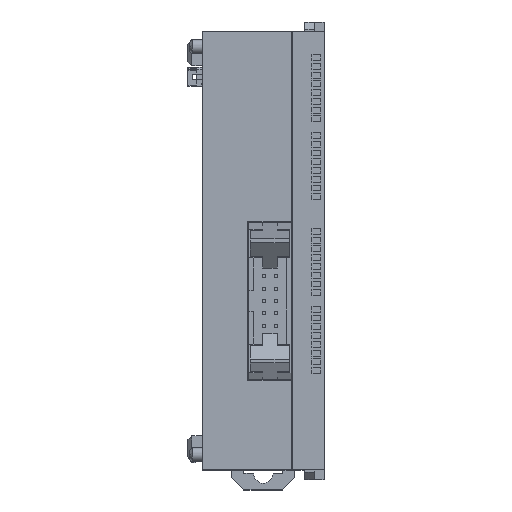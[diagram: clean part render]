
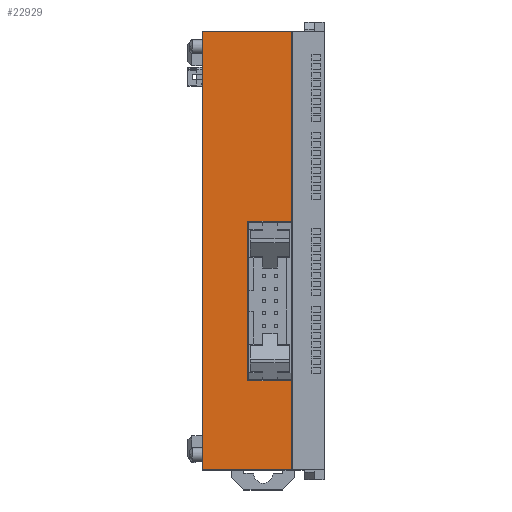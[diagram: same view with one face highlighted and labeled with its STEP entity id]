
A CAD part, top view. The second image highlights one B-rep face of the part: STEP entity #22929.
In plain terms, the highlighted planar face has unit normal (0, 0, 1).
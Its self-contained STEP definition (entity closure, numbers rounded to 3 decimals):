
#3 = VERTEX_POINT ( 'NONE', #5999 ) ;
#456 = VERTEX_POINT ( 'NONE', #6708 ) ;
#5999 = CARTESIAN_POINT ( 'NONE',  ( -12.5, -45., 60. ) ) ;
#6708 = CARTESIAN_POINT ( 'NONE',  ( -12.5, 45., 60. ) ) ;
#7966 = EDGE_CURVE ( 'NONE', #456, #3, #15701, .T. ) ;
#15698 = DIRECTION ( 'NONE',  ( 0., -1., 0. ) ) ;
#15699 = VECTOR ( 'NONE', #15698, 1000. ) ;
#15700 = CARTESIAN_POINT ( 'NONE',  ( -12.5, 45., 60. ) ) ;
#15701 = LINE ( 'NONE', #15700, #15699 ) ;
#16359 = CARTESIAN_POINT ( 'NONE',  ( 5.8, 6., 60. ) ) ;
#18387 = DIRECTION ( 'NONE',  ( 1., 0., 0. ) ) ;
#18388 = VECTOR ( 'NONE', #18387, 1000. ) ;
#18389 = CARTESIAN_POINT ( 'NONE',  ( -12.5, -45., 60. ) ) ;
#18390 = LINE ( 'NONE', #18389, #18388 ) ;
#18450 = CARTESIAN_POINT ( 'NONE',  ( -3.2, -26.7, 60. ) ) ;
#18468 = DIRECTION ( 'NONE',  ( -1., 0., 0. ) ) ;
#18469 = VECTOR ( 'NONE', #18468, 1000. ) ;
#18470 = CARTESIAN_POINT ( 'NONE',  ( 5.8, 6., 60. ) ) ;
#18472 = DIRECTION ( 'NONE',  ( 0., -1., 0. ) ) ;
#18473 = VECTOR ( 'NONE', #18472, 1000. ) ;
#18474 = CARTESIAN_POINT ( 'NONE',  ( -3.2, 6., 60. ) ) ;
#18475 = LINE ( 'NONE', #18474, #18473 ) ;
#18477 = CARTESIAN_POINT ( 'NONE',  ( -3.2, 6., 60. ) ) ;
#18481 = CARTESIAN_POINT ( 'NONE',  ( 5.8, -26.7, 60. ) ) ;
#18483 = LINE ( 'NONE', #18470, #18469 ) ;
#18503 = DIRECTION ( 'NONE',  ( 1., 0., 0. ) ) ;
#18504 = DIRECTION ( 'NONE',  ( 0., 0., 1. ) ) ;
#18507 = DIRECTION ( 'NONE',  ( 1., 0., 0. ) ) ;
#18508 = VECTOR ( 'NONE', #18507, 1000. ) ;
#18509 = FACE_OUTER_BOUND ( 'NONE', #22605, .T. ) ;
#18511 = CARTESIAN_POINT ( 'NONE',  ( 5.8, -26.7, 60. ) ) ;
#18512 = PLANE ( 'NONE',  #18519 ) ;
#18517 = CARTESIAN_POINT ( 'NONE',  ( -12.5, -45., 60. ) ) ;
#18518 = LINE ( 'NONE', #18511, #18508 ) ;
#18519 = AXIS2_PLACEMENT_3D ( 'NONE', #18517, #18504, #18503 ) ;
#18520 = LINE ( 'NONE', #18522, #18573 ) ;
#18522 = CARTESIAN_POINT ( 'NONE',  ( 5.8, 45., 60. ) ) ;
#18556 = DIRECTION ( 'NONE',  ( 0., -1., 0. ) ) ;
#18557 = VECTOR ( 'NONE', #18556, 1000. ) ;
#18562 = LINE ( 'NONE', #18581, #18557 ) ;
#18573 = VECTOR ( 'NONE', #18579, 1000. ) ;
#18579 = DIRECTION ( 'NONE',  ( 0., -1., 0. ) ) ;
#18581 = CARTESIAN_POINT ( 'NONE',  ( 5.8, 45., 60. ) ) ;
#19325 = VERTEX_POINT ( 'NONE', #16359 ) ;
#20947 = EDGE_CURVE ( 'NONE', #3, #24209, #18390, .T. ) ;
#20953 = CARTESIAN_POINT ( 'NONE',  ( 5.8, -45., 60. ) ) ;
#21055 = CARTESIAN_POINT ( 'NONE',  ( 5.8, 45., 60. ) ) ;
#21983 = ORIENTED_EDGE ( 'NONE', *, *, #22832, .F. ) ;
#22238 = DIRECTION ( 'NONE',  ( -1., 0., 0. ) ) ;
#22239 = VECTOR ( 'NONE', #22238, 1000. ) ;
#22240 = CARTESIAN_POINT ( 'NONE',  ( -12.5, 45., 60. ) ) ;
#22242 = LINE ( 'NONE', #22240, #22239 ) ;
#22522 = VERTEX_POINT ( 'NONE', #18450 ) ;
#22605 = EDGE_LOOP ( 'NONE', ( #21983, #22864, #22729, #22910, #23541, #23535, #23529, #23531 ) ) ;
#22677 = VERTEX_POINT ( 'NONE', #18481 ) ;
#22694 = EDGE_CURVE ( 'NONE', #22733, #22522, #18475, .T. ) ;
#22729 = ORIENTED_EDGE ( 'NONE', *, *, #22776, .F. ) ;
#22733 = VERTEX_POINT ( 'NONE', #18477 ) ;
#22776 = EDGE_CURVE ( 'NONE', #19325, #22733, #18483, .T. ) ;
#22832 = EDGE_CURVE ( 'NONE', #22522, #22677, #18518, .T. ) ;
#22864 = ORIENTED_EDGE ( 'NONE', *, *, #22694, .F. ) ;
#22910 = ORIENTED_EDGE ( 'NONE', *, *, #23542, .F. ) ;
#22929 = ADVANCED_FACE ( 'NONE', ( #18509 ), #18512, .T. ) ;
#23528 = EDGE_CURVE ( 'NONE', #22677, #24209, #18520, .T. ) ;
#23529 = ORIENTED_EDGE ( 'NONE', *, *, #20947, .T. ) ;
#23531 = ORIENTED_EDGE ( 'NONE', *, *, #23528, .F. ) ;
#23535 = ORIENTED_EDGE ( 'NONE', *, *, #7966, .T. ) ;
#23541 = ORIENTED_EDGE ( 'NONE', *, *, #25000, .T. ) ;
#23542 = EDGE_CURVE ( 'NONE', #24276, #19325, #18562, .T. ) ;
#24209 = VERTEX_POINT ( 'NONE', #20953 ) ;
#24276 = VERTEX_POINT ( 'NONE', #21055 ) ;
#25000 = EDGE_CURVE ( 'NONE', #24276, #456, #22242, .T. ) ;
